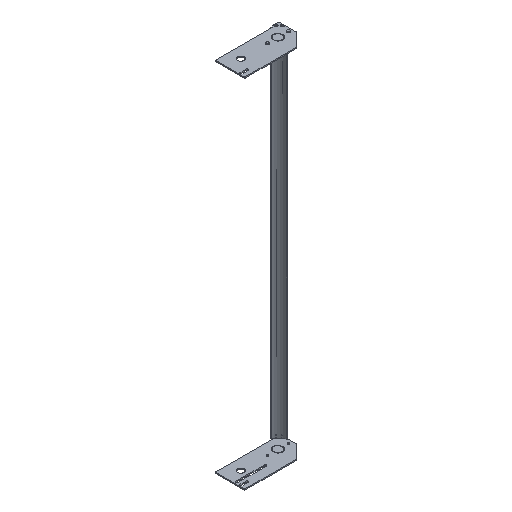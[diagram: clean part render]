
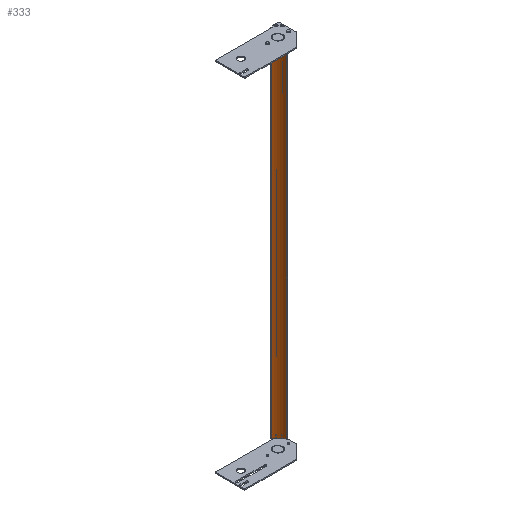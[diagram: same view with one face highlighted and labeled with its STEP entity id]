
A CAD part, isometric view. The second image highlights one B-rep face of the part: STEP entity #333.
In plain terms, the highlighted cylindrical face has radius 40.64 mm (diameter 81.28 mm), a partial arc.
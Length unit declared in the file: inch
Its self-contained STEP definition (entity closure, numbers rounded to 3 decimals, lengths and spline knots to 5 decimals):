
#40=CARTESIAN_POINT('',(-1.52,1.63,-21.118));
#41=DIRECTION('',(0.,0.,-1.));
#42=DIRECTION('',(0.914,-0.405,0.));
#43=AXIS2_PLACEMENT_3D('',#40,#41,#42);
#87=CARTESIAN_POINT('',(-1.52,1.63,21.118));
#88=DIRECTION('',(0.,0.,-1.));
#89=DIRECTION('',(0.914,-0.405,0.));
#90=AXIS2_PLACEMENT_3D('',#87,#88,#89);
#118=DIRECTION('',(0.,0.,1.));
#119=VECTOR('',#118,42.236);
#120=CARTESIAN_POINT('',(-1.00032,0.11675,-21.118));
#121=LINE('',#120,#119);
#122=DIRECTION('',(0.,0.,1.));
#123=VECTOR('',#122,42.236);
#124=CARTESIAN_POINT('',(-0.05742,0.98126,-21.118));
#125=LINE('',#124,#123);
#154=CARTESIAN_POINT('',(-0.05742,0.98126,-21.118));
#155=VERTEX_POINT('',#154);
#156=CARTESIAN_POINT('',(-1.00032,0.11675,-21.118));
#157=VERTEX_POINT('',#156);
#174=CARTESIAN_POINT('',(-0.05742,0.98126,21.118));
#175=VERTEX_POINT('',#174);
#176=CARTESIAN_POINT('',(-1.00032,0.11675,21.118));
#177=VERTEX_POINT('',#176);
#321=CARTESIAN_POINT('',(-1.52,1.63,-21.118));
#322=DIRECTION('',(0.,0.,1.));
#323=DIRECTION('',(1.,0.,0.));
#324=AXIS2_PLACEMENT_3D('',#321,#322,#323);
#325=CYLINDRICAL_SURFACE('',#324,1.6);
#326=ORIENTED_EDGE('',*,*,#191,.F.);
#328=ORIENTED_EDGE('',*,*,#327,.T.);
#329=ORIENTED_EDGE('',*,*,#247,.T.);
#330=ORIENTED_EDGE('',*,*,#314,.F.);
#331=EDGE_LOOP('',(#326,#328,#329,#330));
#332=FACE_OUTER_BOUND('',#331,.F.);
#44=CIRCLE('',#43,1.6);
#91=CIRCLE('',#90,1.6);
#191=EDGE_CURVE('',#155,#157,#44,.T.);
#247=EDGE_CURVE('',#175,#177,#91,.T.);
#314=EDGE_CURVE('',#157,#177,#121,.T.);
#327=EDGE_CURVE('',#155,#175,#125,.T.);
#333=ADVANCED_FACE('',(#332),#325,.F.);
